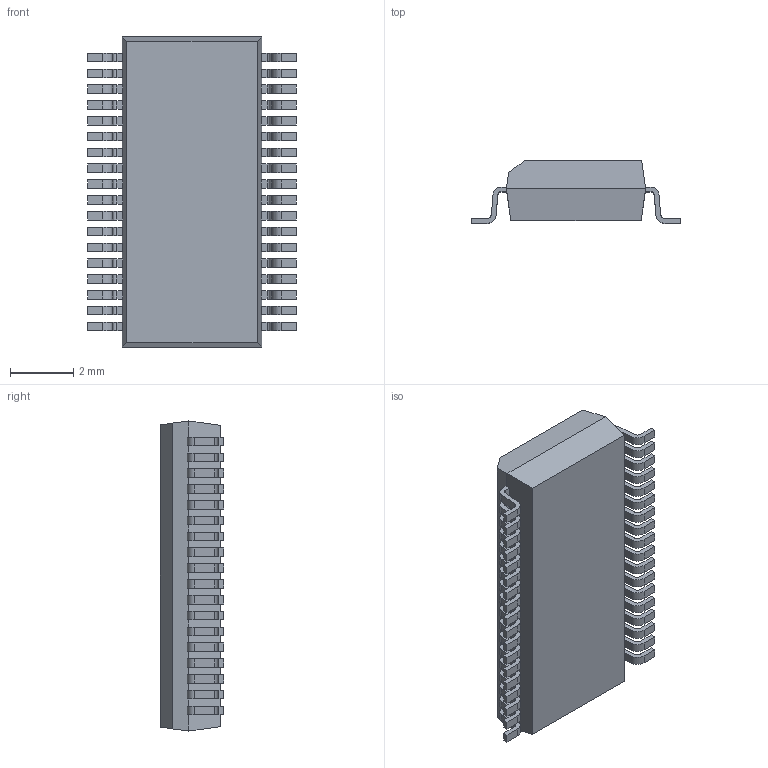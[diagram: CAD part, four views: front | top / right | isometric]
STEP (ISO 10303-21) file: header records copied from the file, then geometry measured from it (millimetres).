
FILE_DESCRIPTION (( 'STEP AP214' ), '1' );
FILE_NAME ('SSOP50P640X200-36_MO-152.BD.STEP', '2014-10-30T11:25:58', ( 'Tester2' ), ( '' ), 'SwSTEP 2.0', 'SolidWorks 2012', '' );
FILE_SCHEMA (( 'AUTOMOTIVE_DESIGN' ));
Length unit declared in the file: millimetre
Products named in the file (1): SSOP50P640X200-36_MO-152.BD
Bounding box: 6.6 x 2 x 9.8 mm (x, y, z)
Volume: 80.2 mm3; surface area: 187.1 mm2
Topology: 1 solids, 1 shells, 482 faces, 1433 edges, 954 vertices
Faces by surface type: plane 336, cylinder 146
Entity records: 21312 total; most frequent: CARTESIAN_POINT 2870, ORIENTED_EDGE 2866, DIRECTION 2691, EDGE_CURVE 1433, VECTOR 1141, LINE 1141, VERTEX_POINT 954, AXIS2_PLACEMENT_3D 775
